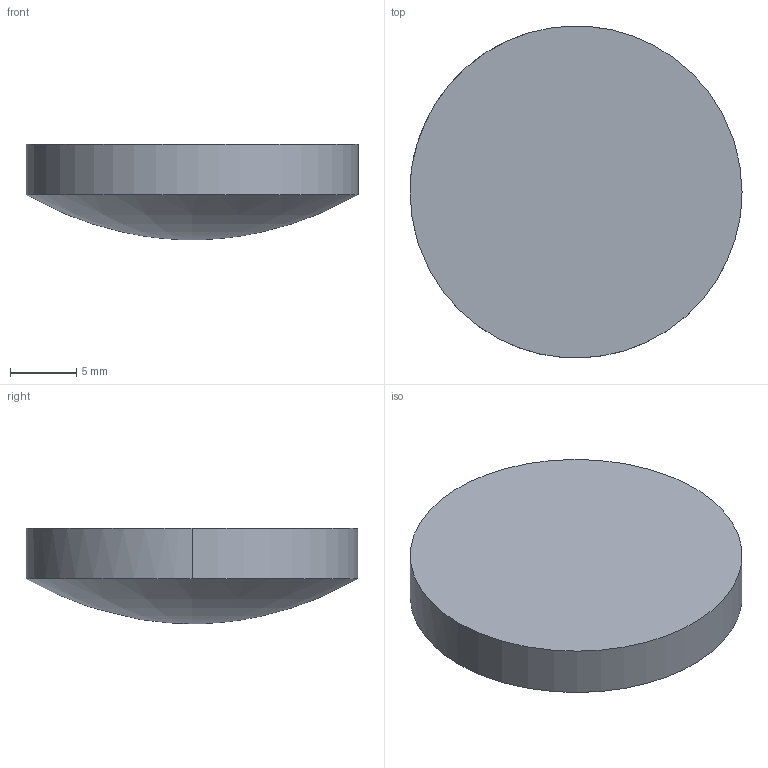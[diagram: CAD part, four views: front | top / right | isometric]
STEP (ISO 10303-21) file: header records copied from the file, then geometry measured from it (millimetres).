
FILE_DESCRIPTION ((), '1');
FILE_NAME ('D:\Applikationen\Optikdesign\StockOptics\Neuentwicklung StockOptics-Designs\AFL Aspheres\AFL25-50 (010712)\ZAS-010712-500-01A Linse Dmr.25_200902_LKI.STP', '2020-09-02T09:37:35', ('Unknown'), ('Unknown'), 'HarmonyWare STEP v2.0.6', 'HarmonyWare Translators', '');
FILE_SCHEMA (('CONFIG_CONTROL_DESIGN'));
Length unit declared in the file: millimetre
Products named in the file (2): NONE
Bounding box: 25 x 24.99 x 7.2 mm (x, y, z)
Volume: 2714.8 mm3; surface area: 1317.4 mm2
Topology: 1 solids, 1 shells, 4 faces, 18 edges, 24 vertices
Faces by surface type: cylinder 2, bspline 1, plane 1
Entity records: 430 total; most frequent: CARTESIAN_POINT 151, ORIENTED_EDGE 16, PERSON 16, ORGANIZATION 16, PERSON_AND_ORGANIZATION 16, DIRECTION 15, PERSON_AND_ORGANIZATION_ROLE 10, CC_DESIGN_PERSON_AND_ORGANIZATION_ASSIGNMENT 10
